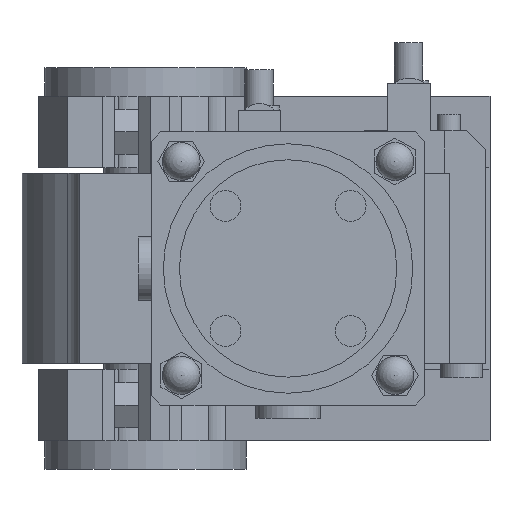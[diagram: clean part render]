
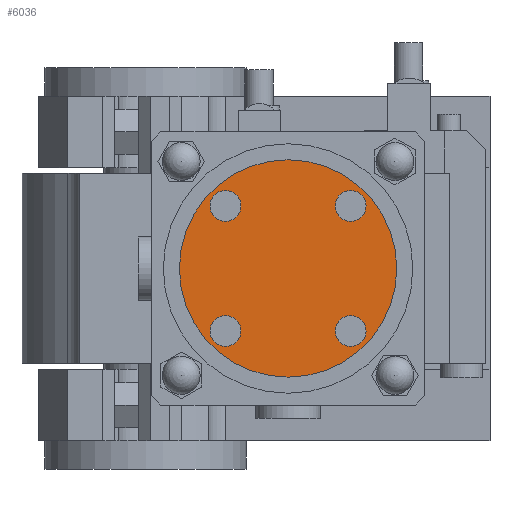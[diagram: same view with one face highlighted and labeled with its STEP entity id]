
A CAD part, front view. The second image highlights one B-rep face of the part: STEP entity #6036.
In plain terms, the highlighted planar face has unit normal (0, -1, 0).
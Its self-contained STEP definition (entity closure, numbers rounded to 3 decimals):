
#1356=PLANE('',#6712);
#1635=FACE_BOUND('',#2316,.T.);
#1636=FACE_BOUND('',#2317,.T.);
#1637=FACE_BOUND('',#2318,.T.);
#1638=FACE_BOUND('',#2319,.T.);
#1864=FACE_OUTER_BOUND('',#2315,.T.);
#2315=EDGE_LOOP('',(#4701));
#2316=EDGE_LOOP('',(#4702));
#2317=EDGE_LOOP('',(#4703));
#2318=EDGE_LOOP('',(#4704));
#2319=EDGE_LOOP('',(#4705));
#2716=CIRCLE('',#6666,6.5);
#2718=CIRCLE('',#6669,6.5);
#2720=CIRCLE('',#6672,6.5);
#2722=CIRCLE('',#6675,6.5);
#2723=CIRCLE('',#6677,45.75);
#3020=VERTEX_POINT('',#9391);
#3022=VERTEX_POINT('',#9396);
#3024=VERTEX_POINT('',#9401);
#3026=VERTEX_POINT('',#9406);
#3027=VERTEX_POINT('',#9409);
#3652=EDGE_CURVE('',#3020,#3020,#2716,.T.);
#3654=EDGE_CURVE('',#3022,#3022,#2718,.T.);
#3656=EDGE_CURVE('',#3024,#3024,#2720,.T.);
#3658=EDGE_CURVE('',#3026,#3026,#2722,.T.);
#3659=EDGE_CURVE('',#3027,#3027,#2723,.T.);
#4701=ORIENTED_EDGE('',*,*,#3659,.T.);
#4702=ORIENTED_EDGE('',*,*,#3656,.F.);
#4703=ORIENTED_EDGE('',*,*,#3652,.F.);
#4704=ORIENTED_EDGE('',*,*,#3654,.F.);
#4705=ORIENTED_EDGE('',*,*,#3658,.F.);
#6036=ADVANCED_FACE('',(#1864,#1635,#1636,#1637,#1638),#1356,.T.);
#6666=AXIS2_PLACEMENT_3D('',#9392,#7623,#7624);
#6669=AXIS2_PLACEMENT_3D('',#9397,#7629,#7630);
#6672=AXIS2_PLACEMENT_3D('',#9402,#7635,#7636);
#6675=AXIS2_PLACEMENT_3D('',#9407,#7641,#7642);
#6677=AXIS2_PLACEMENT_3D('',#9410,#7645,#7646);
#6712=AXIS2_PLACEMENT_3D('',#9468,#7715,#7716);
#7623=DIRECTION('center_axis',(0.,-1.,0.));
#7624=DIRECTION('ref_axis',(0.,0.,-1.));
#7629=DIRECTION('center_axis',(0.,-1.,0.));
#7630=DIRECTION('ref_axis',(0.,0.,-1.));
#7635=DIRECTION('center_axis',(0.,-1.,0.));
#7636=DIRECTION('ref_axis',(0.,0.,-1.));
#7641=DIRECTION('center_axis',(0.,-1.,0.));
#7642=DIRECTION('ref_axis',(0.,0.,-1.));
#7645=DIRECTION('center_axis',(0.,-1.,0.));
#7646=DIRECTION('ref_axis',(0.,0.,-1.));
#7715=DIRECTION('center_axis',(0.,-1.,0.));
#7716=DIRECTION('ref_axis',(0.,0.,-1.));
#9391=CARTESIAN_POINT('',(33.66,-535.5,-19.84));
#9392=CARTESIAN_POINT('Origin',(33.66,-535.5,-26.34));
#9396=CARTESIAN_POINT('',(86.34,-535.5,-19.84));
#9397=CARTESIAN_POINT('Origin',(86.34,-535.5,-26.34));
#9401=CARTESIAN_POINT('',(86.34,-535.5,32.84));
#9402=CARTESIAN_POINT('Origin',(86.34,-535.5,26.34));
#9406=CARTESIAN_POINT('',(33.66,-535.5,32.84));
#9407=CARTESIAN_POINT('Origin',(33.66,-535.5,26.34));
#9409=CARTESIAN_POINT('',(60.,-535.5,45.75));
#9410=CARTESIAN_POINT('Origin',(60.,-535.5,0.));
#9468=CARTESIAN_POINT('Origin',(60.,-535.5,0.));
